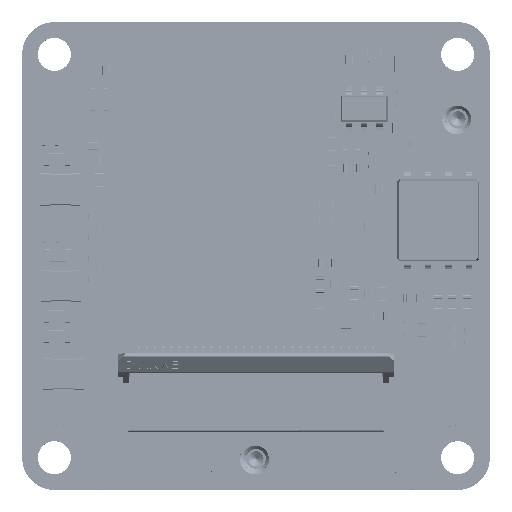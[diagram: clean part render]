
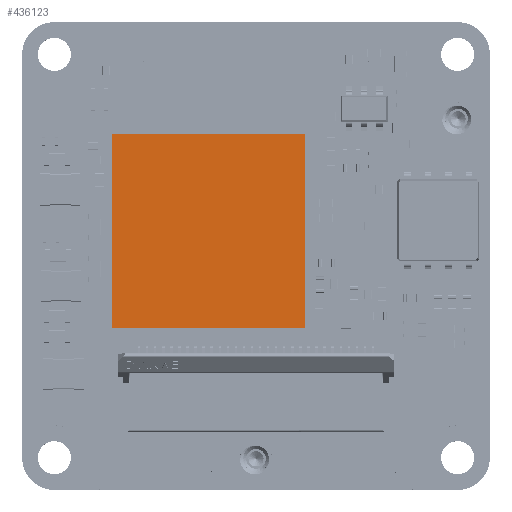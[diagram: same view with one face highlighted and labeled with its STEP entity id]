
A CAD part, top view. The second image highlights one B-rep face of the part: STEP entity #436123.
In plain terms, the highlighted planar face has unit normal (0, 0, 1).
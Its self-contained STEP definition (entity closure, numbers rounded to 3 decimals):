
#436123 = ADVANCED_FACE('',(#436124),#436158,.T.);
#436124 = FACE_BOUND('',#436125,.F.);
#436125 = EDGE_LOOP('',(#436126,#436136,#436144,#436152));
#436126 = ORIENTED_EDGE('',*,*,#436127,.T.);
#436127 = EDGE_CURVE('',#436128,#436130,#436132,.T.);
#436128 = VERTEX_POINT('',#436129);
#436129 = CARTESIAN_POINT('',(5.557,22.053,0.97));
#436130 = VERTEX_POINT('',#436131);
#436131 = CARTESIAN_POINT('',(17.557,22.053,0.97));
#436132 = LINE('',#436133,#436134);
#436133 = CARTESIAN_POINT('',(5.557,22.053,0.97));
#436134 = VECTOR('',#436135,1.);
#436135 = DIRECTION('',(1.,0.,0.));
#436136 = ORIENTED_EDGE('',*,*,#436137,.T.);
#436137 = EDGE_CURVE('',#436130,#436138,#436140,.T.);
#436138 = VERTEX_POINT('',#436139);
#436139 = CARTESIAN_POINT('',(17.557,10.053,0.97));
#436140 = LINE('',#436141,#436142);
#436141 = CARTESIAN_POINT('',(17.557,22.053,0.97));
#436142 = VECTOR('',#436143,1.);
#436143 = DIRECTION('',(0.,-1.,0.));
#436144 = ORIENTED_EDGE('',*,*,#436145,.T.);
#436145 = EDGE_CURVE('',#436138,#436146,#436148,.T.);
#436146 = VERTEX_POINT('',#436147);
#436147 = CARTESIAN_POINT('',(5.557,10.053,0.97));
#436148 = LINE('',#436149,#436150);
#436149 = CARTESIAN_POINT('',(17.557,10.053,0.97));
#436150 = VECTOR('',#436151,1.);
#436151 = DIRECTION('',(-1.,0.,0.));
#436152 = ORIENTED_EDGE('',*,*,#436153,.T.);
#436153 = EDGE_CURVE('',#436146,#436128,#436154,.T.);
#436154 = LINE('',#436155,#436156);
#436155 = CARTESIAN_POINT('',(5.557,10.053,0.97));
#436156 = VECTOR('',#436157,1.);
#436157 = DIRECTION('',(0.,1.,0.));
#436158 = PLANE('',#436159);
#436159 = AXIS2_PLACEMENT_3D('',#436160,#436161,#436162);
#436160 = CARTESIAN_POINT('',(18.157,22.653,0.97));
#436161 = DIRECTION('',(0.,0.,1.));
#436162 = DIRECTION('',(-1.,0.,0.));
